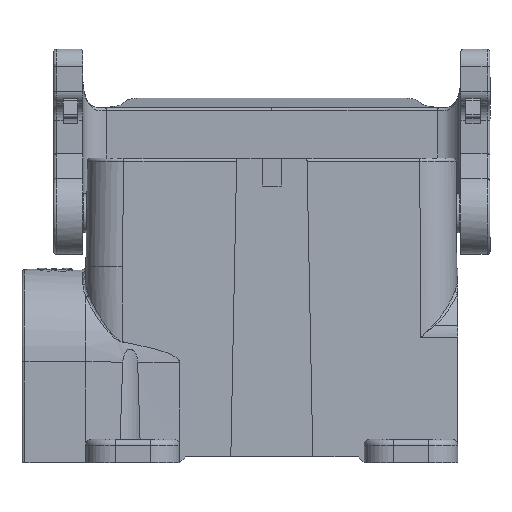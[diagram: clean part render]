
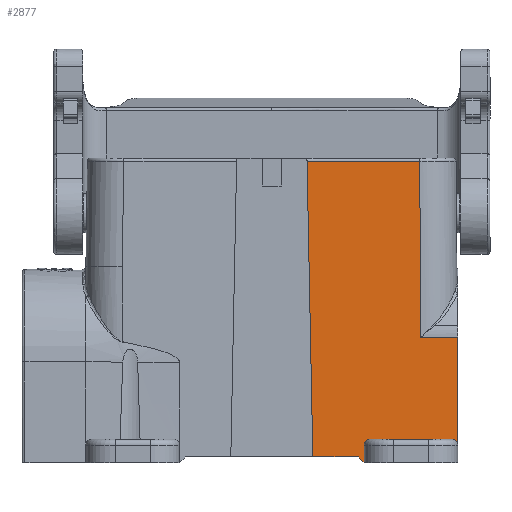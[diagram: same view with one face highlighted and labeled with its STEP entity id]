
A CAD part, front view. The second image highlights one B-rep face of the part: STEP entity #2877.
In plain terms, the highlighted planar face has unit normal (0, -1, 0.008).
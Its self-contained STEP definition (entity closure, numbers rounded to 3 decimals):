
#81=ELLIPSE('',#10285,1.,1.);
#82=ELLIPSE('',#10286,1.,1.);
#2877=ADVANCED_FACE('',(#3519),#3254,.T.);
#3254=PLANE('',#10287);
#3519=FACE_OUTER_BOUND('',#3998,.T.);
#3998=EDGE_LOOP('',(#5394,#5395,#5396,#5397,#5398,#5399,#5400,#5401,#5402,
#5403,#5404));
#5394=ORIENTED_EDGE('',*,*,#7949,.F.);
#5395=ORIENTED_EDGE('',*,*,#8174,.T.);
#5396=ORIENTED_EDGE('',*,*,#8175,.T.);
#5397=ORIENTED_EDGE('',*,*,#8176,.T.);
#5398=ORIENTED_EDGE('',*,*,#8177,.F.);
#5399=ORIENTED_EDGE('',*,*,#8178,.T.);
#5400=ORIENTED_EDGE('',*,*,#8179,.T.);
#5401=ORIENTED_EDGE('',*,*,#8068,.F.);
#5402=ORIENTED_EDGE('',*,*,#8180,.T.);
#5403=ORIENTED_EDGE('',*,*,#8181,.T.);
#5404=ORIENTED_EDGE('',*,*,#8182,.T.);
#7034=VERTEX_POINT('',#15296);
#7035=VERTEX_POINT('',#15298);
#7147=VERTEX_POINT('',#15884);
#7148=VERTEX_POINT('',#15886);
#7239=VERTEX_POINT('',#16244);
#7240=VERTEX_POINT('',#16246);
#7241=VERTEX_POINT('',#16248);
#7242=VERTEX_POINT('',#16250);
#7243=VERTEX_POINT('',#16252);
#7244=VERTEX_POINT('',#16255);
#7245=VERTEX_POINT('',#16257);
#7949=EDGE_CURVE('',#7034,#7035,#8924,.T.);
#8068=EDGE_CURVE('',#7147,#7148,#8982,.T.);
#8174=EDGE_CURVE('',#7034,#7239,#9040,.T.);
#8175=EDGE_CURVE('',#7239,#7240,#9041,.T.);
#8176=EDGE_CURVE('',#7240,#7241,#9042,.T.);
#8177=EDGE_CURVE('',#7242,#7241,#9043,.T.);
#8178=EDGE_CURVE('',#7242,#7243,#9044,.T.);
#8179=EDGE_CURVE('',#7243,#7148,#9045,.T.);
#8180=EDGE_CURVE('',#7147,#7244,#81,.T.);
#8181=EDGE_CURVE('',#7244,#7245,#9046,.T.);
#8182=EDGE_CURVE('',#7245,#7035,#82,.T.);
#8924=LINE('',#15297,#9427);
#8982=LINE('',#15885,#9485);
#9040=LINE('',#16243,#9543);
#9041=LINE('',#16245,#9544);
#9042=LINE('',#16247,#9545);
#9043=LINE('',#16249,#9546);
#9044=LINE('',#16251,#9547);
#9045=LINE('',#16253,#9548);
#9046=LINE('',#16256,#9549);
#9427=VECTOR('',#11407,1.);
#9485=VECTOR('',#11509,1.);
#9543=VECTOR('',#11653,1.);
#9544=VECTOR('',#11654,1.);
#9545=VECTOR('',#11655,1.);
#9546=VECTOR('',#11656,1.);
#9547=VECTOR('',#11657,1.);
#9548=VECTOR('',#11658,1.);
#9549=VECTOR('',#11661,1.);
#10285=AXIS2_PLACEMENT_3D('',#16254,#11659,#11660);
#10286=AXIS2_PLACEMENT_3D('',#16258,#11662,#11663);
#10287=AXIS2_PLACEMENT_3D('',#16259,#11664,#11665);
#11407=DIRECTION('',(0.,-0.008,-1.));
#11509=DIRECTION('',(0.,-0.008,-1.));
#11653=DIRECTION('',(-1.,0.,0.));
#11654=DIRECTION('',(-0.006,0.008,1.));
#11655=DIRECTION('',(-1.,0.,0.));
#11656=DIRECTION('',(-0.02,0.008,1.));
#11657=DIRECTION('',(1.,0.,0.));
#11658=DIRECTION('',(0.707,-0.005,-0.707));
#11659=DIRECTION('',(0.,1.,-0.008));
#11660=DIRECTION('',(0.,0.008,1.));
#11661=DIRECTION('',(1.,0.,0.));
#11662=DIRECTION('',(0.,1.,-0.008));
#11663=DIRECTION('',(0.,0.008,1.));
#11664=DIRECTION('',(0.,-1.,0.008));
#11665=DIRECTION('',(0.,-0.008,-1.));
#15296=CARTESIAN_POINT('',(31.75,-15.31,-21.41));
#15297=CARTESIAN_POINT('',(31.75,-15.303,-20.484));
#15298=CARTESIAN_POINT('',(31.75,-15.452,-39.85));
#15884=CARTESIAN_POINT('',(15.75,-15.452,-39.85));
#15885=CARTESIAN_POINT('',(15.75,-15.475,-42.85));
#15886=CARTESIAN_POINT('',(15.75,-15.475,-42.85));
#16243=CARTESIAN_POINT('',(32.,-15.31,-21.41));
#16244=CARTESIAN_POINT('',(25.426,-15.31,-21.41));
#16245=CARTESIAN_POINT('',(25.25,-15.075,9.114));
#16246=CARTESIAN_POINT('',(25.253,-15.079,8.654));
#16247=CARTESIAN_POINT('',(6.,-15.079,8.654));
#16248=CARTESIAN_POINT('',(6.01,-15.079,8.654));
#16249=CARTESIAN_POINT('',(7.029,-15.479,-43.34));
#16250=CARTESIAN_POINT('',(7.,-15.467,-41.85));
#16251=CARTESIAN_POINT('',(32.,-15.467,-41.85));
#16252=CARTESIAN_POINT('',(14.75,-15.467,-41.85));
#16253=CARTESIAN_POINT('',(14.648,-15.467,-41.748));
#16254=CARTESIAN_POINT('',(16.75,-15.452,-39.85));
#16255=CARTESIAN_POINT('',(16.223,-15.445,-39.));
#16256=CARTESIAN_POINT('',(32.,-15.445,-39.));
#16257=CARTESIAN_POINT('',(31.277,-15.445,-39.));
#16258=CARTESIAN_POINT('',(30.75,-15.452,-39.85));
#16259=CARTESIAN_POINT('',(32.,-15.475,-42.85));
